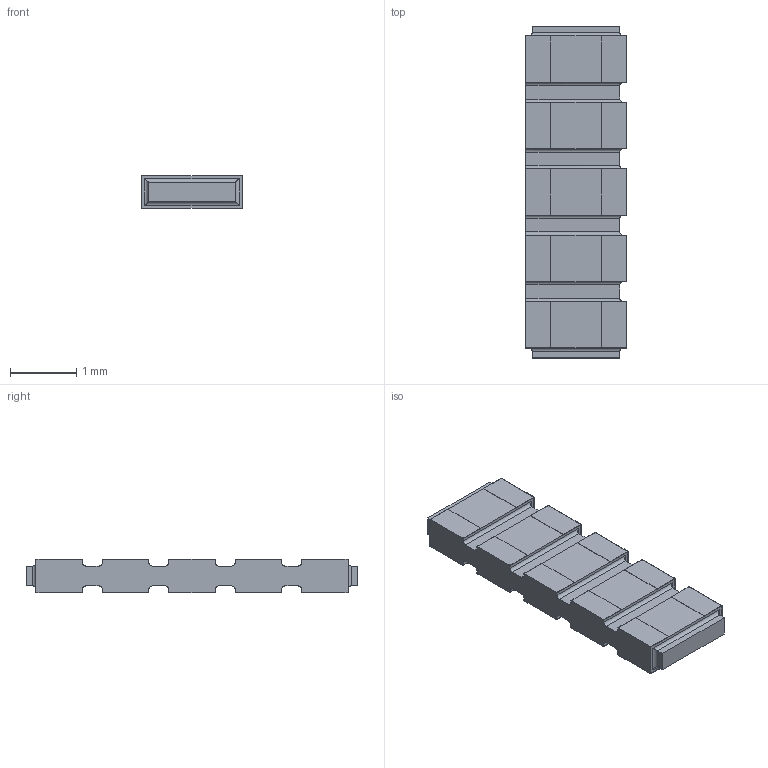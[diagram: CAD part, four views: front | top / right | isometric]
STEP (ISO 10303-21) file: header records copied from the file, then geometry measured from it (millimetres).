
FILE_DESCRIPTION(/* description */ (''),/* implementation_level */ '2;1');
FILE_NAME(/* name */ 'S:\DOCUMENT\AUTOCAD\3D_Modèles\10_3D-pour-VISHAY-COM\PRA\PRA100\PRA100-C2_à_C8\20_STEP\PRA100C5_B-or-N-or-G.stp',/* time_stamp */ '2017-12-18T09:20:52+01:00',/* author */ ('dparmentier'),/* organization */ ('unknown'),/* preprocessor_version */ 'ST-DEVELOPER v17',/* originating_system */ 'Autodesk Inventor 2018',/* authorisation */ '');
FILE_SCHEMA (('AUTOMOTIVE_DESIGN { 1 0 10303 214 3 1 1 }'));
Length unit declared in the file: millimetre
Products named in the file (1): PRA100C5_B-or-N-or-G
Bounding box: 1.52 x 5 x 0.5 mm (x, y, z)
Volume: 3.3 mm3; surface area: 40.9 mm2
Topology: 7 solids, 7 shells, 204 faces, 540 edges, 352 vertices
Faces by surface type: plane 156, cylinder 48
Entity records: 6271 total; most frequent: CARTESIAN_POINT 1097, ORIENTED_EDGE 1080, DIRECTION 1022, EDGE_CURVE 540, LINE 468, VECTOR 468, VERTEX_POINT 352, AXIS2_PLACEMENT_3D 277
